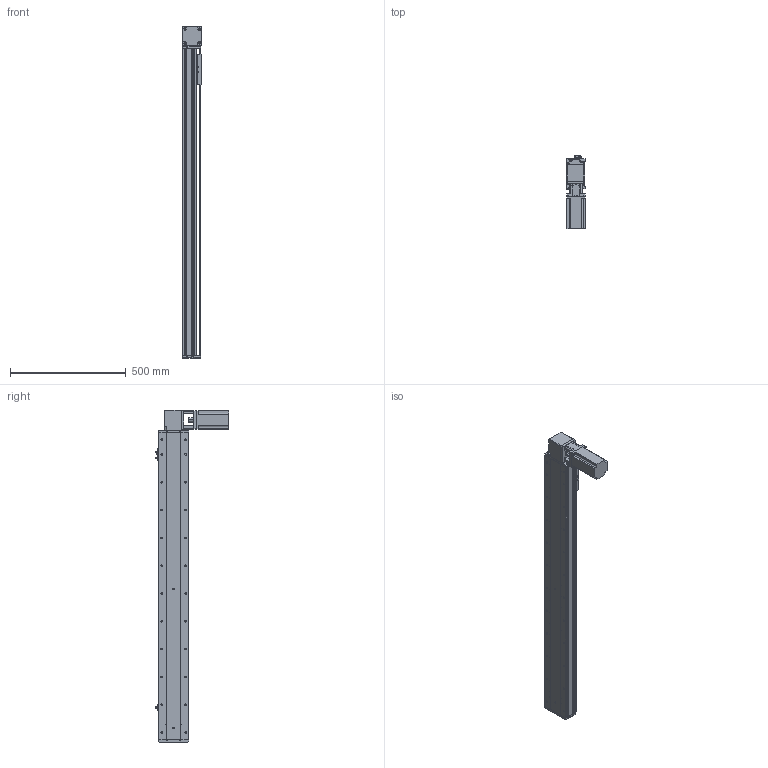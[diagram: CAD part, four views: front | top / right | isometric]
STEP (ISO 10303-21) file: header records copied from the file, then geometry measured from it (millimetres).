
FILE_DESCRIPTION (( 'STEP AP214' ), '1' );
FILE_NAME ('KSD130B-S1100-MLT-CM.STEP', '2019-09-23T07:24:39', ( '微软用户' ), ( '微软中国' ), 'SwSTEP 2.0', 'SolidWorks 2014', '' );
FILE_SCHEMA (( 'AUTOMOTIVE_DESIGN' ));
Length unit declared in the file: millimetre
Products named in the file (12): 130宽马达安装板同步带左-改; 130宽马达安装板同步带半封闭; 130宽同步带安装座半封闭; 130宽端盖同步带半封闭; 130宽底板半封闭同步带-1100行程; KSD130B-S1100-MLT-CM; 台达ECMA－C20807AS伺服电机; 130宽马达安装板1-带电机座750W（1）; 覜茼え100遵圉猾敕; U倰嫖萇EEㄜSX672; 130宽安装板同步带带电机座750W; 130宽盖板半封闭同步带-1100行程
Assembly tree (13 placements, depth 2):
  KSD130B-S1100-MLT-CM
    130宽底板半封闭同步带-1100行程
    130宽端盖同步带半封闭
    130宽同步带安装座半封闭
    130宽马达安装板同步带半封闭
    130宽马达安装板同步带左-改
    130宽盖板半封闭同步带-1100行程
    130宽安装板同步带带电机座750W
    U倰嫖萇EEㄜSX672  x3
    覜茼え100遵圉猾敕
    130宽马达安装板1-带电机座750W（1）
    台达ECMA－C20807AS伺服电机
Bounding box: 81 x 316 x 1433 mm (x, y, z)
Volume: 5232341.7 mm3; surface area: 1395840.1 mm2
Topology: 14 solids, 14 shells, 1559 faces, 4472 edges, 2851 vertices
Faces by surface type: cylinder 757, plane 613, cone 189
Entity records: 51755 total; most frequent: CARTESIAN_POINT 9729, DIRECTION 7854, ORIENTED_EDGE 7564, EDGE_CURVE 3782, AXIS2_PLACEMENT_3D 2888, VERTEX_POINT 2475, VECTOR 2078, LINE 2078
